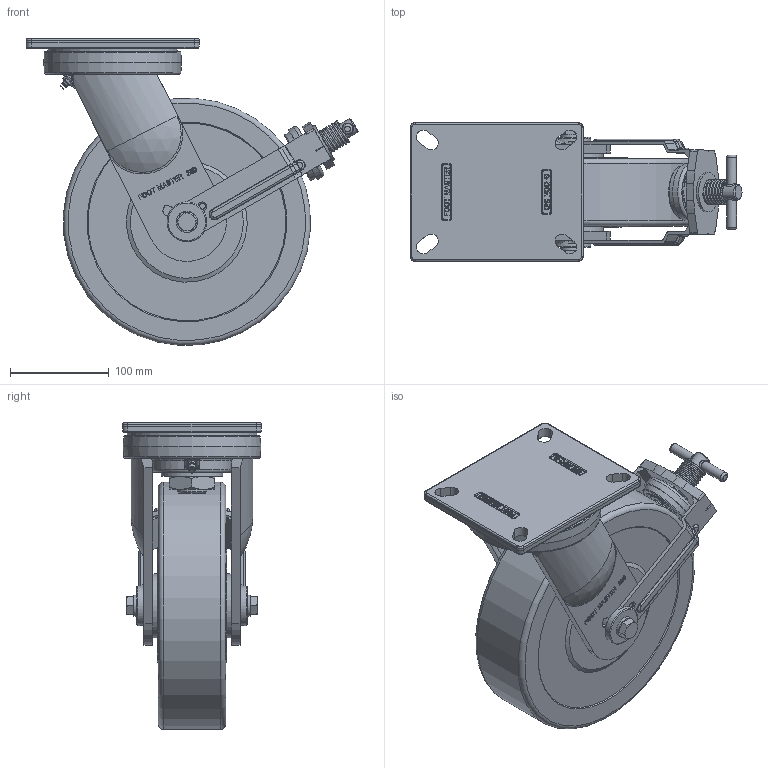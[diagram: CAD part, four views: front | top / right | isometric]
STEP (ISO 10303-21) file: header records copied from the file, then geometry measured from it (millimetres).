
FILE_DESCRIPTION(/* description */ (''),/* implementation_level */ '2;1');
FILE_NAME(/* name */ 'Y:\1.기술연구소\2.연구개발 진행중\133.고하중캐스터 브레이크 타입 변경건_2025.11.03\1.도면\4.홈페이지용 도면\01. 3D\GXT-250 SERIES\GXT-250-STEP\GXT-250-BSF-MCD.stp',/* time_stamp */ '2026-07-22T07:50:01+09:00',/* author */ ('장용하'),/* organization */ (''),/* preprocessor_version */ 'ST-DEVELOPER v18.1',/* originating_system */ 'Autodesk Inventor 2021',/* authorisation */ '');
FILE_SCHEMA (('CONFIG_CONTROL_DESIGN'));
Length unit declared in the file: millimetre
Products named in the file (1): GXT-250-BSF-MCD
Bounding box: 335.39 x 140 x 309.74 mm (x, y, z)
Volume: 4511150.7 mm3; surface area: 339065.6 mm2
Topology: 1 solids, 1 shells, 1788 faces, 4791 edges, 3131 vertices
Faces by surface type: plane 840, bspline 642, cylinder 206, torus 53, cone 43, sphere 4
Full cylindrical faces by diameter (mm): 10 x2, 12 x2, 13 x2, 16 x1, 20 x1, 30 x1, 31.606 x1, 37.448 x2, 40 x3, 54 x2, 58 x1, 62.5 x1, 65 x2, 131.086 x1, 250 x1
Entity records: 60838 total; most frequent: CARTESIAN_POINT 20082, ORIENTED_EDGE 9586, DIRECTION 6456, EDGE_CURVE 4793, VERTEX_POINT 3133, LINE 2720, VECTOR 2720, EDGE_LOOP 1940
